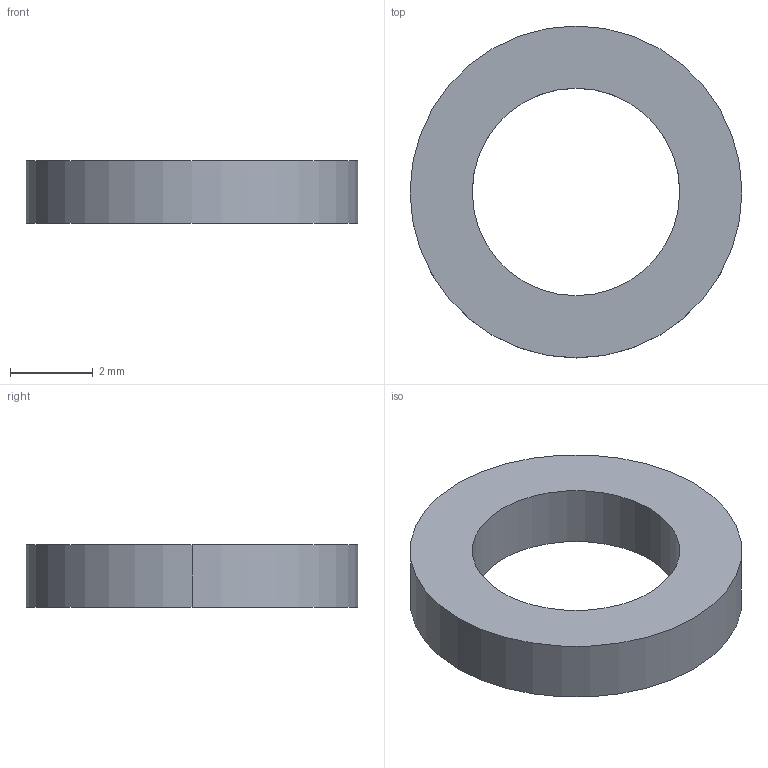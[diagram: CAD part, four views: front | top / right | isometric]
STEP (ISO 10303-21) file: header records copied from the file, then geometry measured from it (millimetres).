
FILE_DESCRIPTION(/* description */ (''),/* implementation_level */ '2;1');
FILE_NAME(/* name */ 'Stability Rings',/* time_stamp */ '2025-06-02T09:55:12-04:00',/* author */ (''),/* organization */ (''),/* preprocessor_version */ 'ST-DEVELOPER v19.2',/* originating_system */ 'Rhino 8.19',/* authorisation */ '');
FILE_SCHEMA (('CONFIG_CONTROL_DESIGN'));
Length unit declared in the file: millimetre
Products named in the file (1): Document
Bounding box: 8 x 8 x 1.5 mm (x, y, z)
Volume: 45.9 mm3; surface area: 122.5 mm2
Topology: 1 solids, 1 shells, 6 faces, 12 edges, 8 vertices
Faces by surface type: cylinder 4, plane 2
Entity records: 264 total; most frequent: CARTESIAN_POINT 48, DIRECTION 26, ORIENTED_EDGE 24, AXIS2_PLACEMENT_3D 16, EDGE_CURVE 12, EDGE_LOOP 8, TRIMMED_CURVE 8, CIRCLE 8
